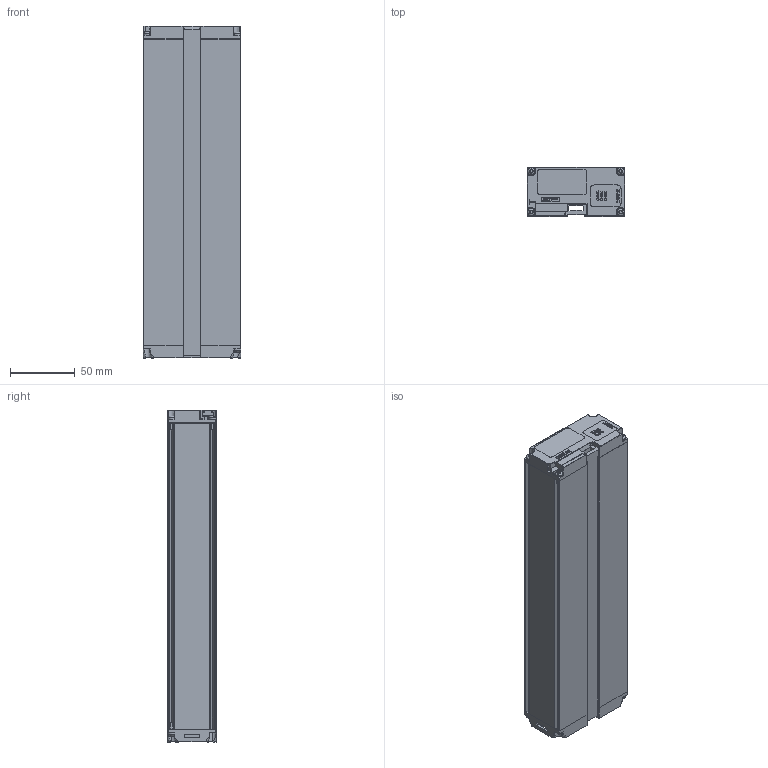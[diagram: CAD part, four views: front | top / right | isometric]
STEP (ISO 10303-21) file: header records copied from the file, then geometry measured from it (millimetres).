
FILE_DESCRIPTION (( 'STEP AP214' ), '1' );
FILE_NAME ('Z-103059_LIMAX1CP_1CP-R.STEP', '2025-02-26T10:15:28', ( '' ), ( '' ), 'SwSTEP 2.0', 'SolidWorks 2024', '' );
FILE_SCHEMA (( 'AUTOMOTIVE_DESIGN' ));
Length unit declared in the file: millimetre
Products named in the file (3): Z-103059_LIMAX1CP_1CP-R; Group1^Z-103059_defeature; Z-100775-1^Z-103059_defeature
Assembly tree (2 placements, depth 2):
  Z-103059_LIMAX1CP_1CP-R
    Group1^Z-103059_defeature
    Z-100775-1^Z-103059_defeature
Bounding box: 75 x 37.5 x 256.05 mm (x, y, z)
Volume: 668164.9 mm3; surface area: 102137.5 mm2
Topology: 15 solids, 15 shells, 3271 faces, 8933 edges, 5728 vertices
Faces by surface type: plane 1727, cylinder 779, bspline 637, cone 81, torus 37, sphere 10
Entity records: 196849 total; most frequent: CARTESIAN_POINT 83175, ORIENTED_EDGE 17744, DIRECTION 13914, EDGE_CURVE 8872, VECTOR 5764, LINE 5764, VERTEX_POINT 5728, AXIS2_PLACEMENT_3D 4075
